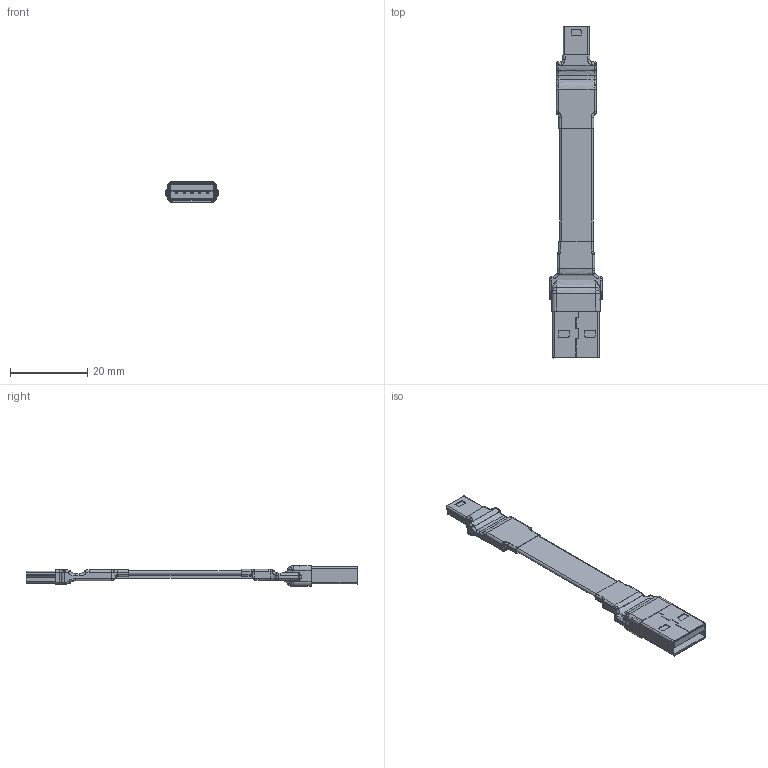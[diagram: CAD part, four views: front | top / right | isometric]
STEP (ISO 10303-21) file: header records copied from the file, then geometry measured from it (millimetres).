
FILE_DESCRIPTION(('Open CASCADE Model'),'2;1');
FILE_NAME('Open CASCADE Shape Model','2026-01-04T16:33:44',('Author'),( 'Open CASCADE'),'Open CASCADE STEP processor 7.5','Open CASCADE 7.5' ,'Unknown');
FILE_SCHEMA(('AUTOMOTIVE_DESIGN { 1 0 10303 214 1 1 1 1 }'));
Length unit declared in the file: millimetre
Products named in the file (47): PCB; Board; Open CASCADE STEP translator 7.5 2.1.1; Designator28; MINI USB B M 5Pһͥʽ¶̗ӽżӳ¤ǰϥº􏣀w­,怜 ª; Open CASCADE STEP translator 7.5 2.3; USB ¹«ͷ 20211210£¨3£©; Free-Models; USB A 13P ƽֱɈ̵¹ڠ20260104_RGB4408131; UN1 13P ƽֱɈ̵¹ڠ20260104_RGB4408131; cable13-US2A
Assembly tree (46 placements, depth 3):
  PCB
    Board
      Open CASCADE STEP translator 7.5 2.1.1
    Designator28
      MINI USB B M 5Pһͥʽ¶̗ӽżӳ¤ǰϥº􏣀w­,怜 ª
      MINI USB B M 5Pһͥʽ¶̗ӽżӳ¤ǰϥº􏣀w­,怜 ª
      MINI USB B M 5Pһͥʽ¶̗ӽżӳ¤ǰϥº􏣀w­,怜 ª
      MINI USB B M 5Pһͥʽ¶̗ӽżӳ¤ǰϥº􏣀w­,怜 ª
    Open CASCADE STEP translator 7.5 2.3
      USB ¹«ͷ 20211210£¨3£©
      USB ¹«ͷ 20211210£¨3£©
      USB ¹«ͷ 20211210£¨3£©
      USB ¹«ͷ 20211210£¨3£©
      USB ¹«ͷ 20211210£¨3£©
      USB ¹«ͷ 20211210£¨3£©
      USB ¹«ͷ 20211210£¨3£©
      USB ¹«ͷ 20211210£¨3£©
    Free-Models
      USB A 13P ƽֱɈ̵¹ڠ20260104_RGB4408131
      UN1 13P ƽֱɈ̵¹ڠ20260104_RGB4408131
      cable13-US2A
      cable13-US2A
      cable13-US2A
      cable13-US2A
      cable13-US2A
      cable13-US2A
      cable13-US2A
      cable13-US2A
      cable13-US2A
      cable13-US2A
      cable13-US2A
      cable13-US2A
      cable13-US2A
      cable13-US2A
      cable13-US2A
      cable13-US2A
      cable13-US2A
      cable13-US2A
      cable13-US2A
      cable13-US2A
      cable13-US2A
      cable13-US2A
      cable13-US2A
      cable13-US2A
      cable13-US2A
      cable13-US2A
      cable13-US2A
Bounding box: 13.6 x 85.69 x 5.4 mm (x, y, z)
Volume: 1229.9 mm3; surface area: 6282.3 mm2
Topology: 42 solids, 42 shells, 1085 faces, 2649 edges, 1589 vertices
Faces by surface type: plane 492, cylinder 293, bspline 233, torus 30, offset 29, sphere 8
Full cylindrical faces by diameter (mm): 0.4 x65, 0.55 x13, 0.6 x13
Entity records: 76852 total; most frequent: CARTESIAN_POINT 47670, ORIENTED_EDGE 5146, DIRECTION 4088, EDGE_CURVE 2573, VERTEX_POINT 1589, AXIS2_PLACEMENT_3D 1373, LINE 1342, VECTOR 1342
